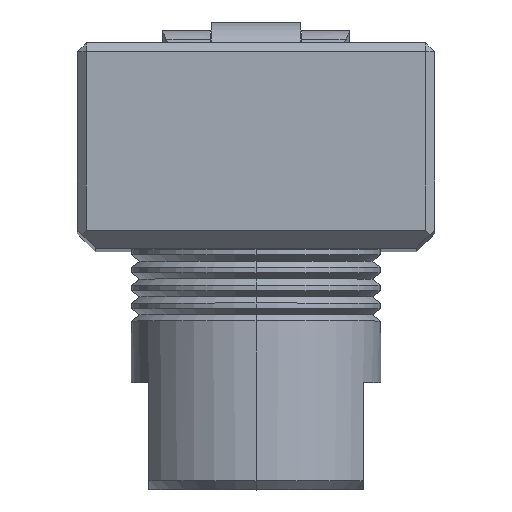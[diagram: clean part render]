
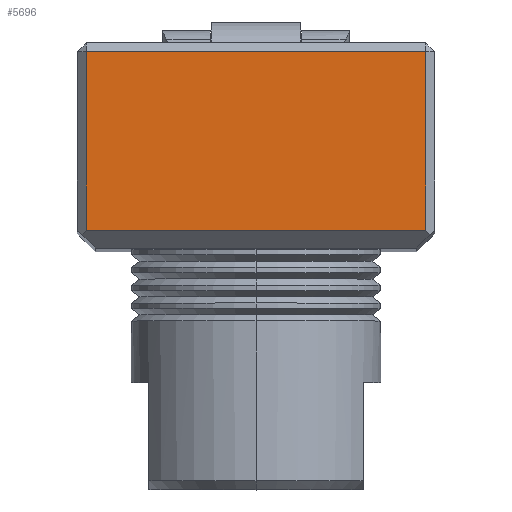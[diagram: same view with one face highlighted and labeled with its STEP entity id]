
A CAD part, top view. The second image highlights one B-rep face of the part: STEP entity #5696.
In plain terms, the highlighted planar face has unit normal (0, 0, 1).
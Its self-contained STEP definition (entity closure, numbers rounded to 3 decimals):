
#356 = EDGE_CURVE ( 'NONE', #379, #5693, #2298, .T. ) ;
#374 = VERTEX_POINT ( 'NONE', #2334 ) ;
#375 = VERTEX_POINT ( 'NONE', #2333 ) ;
#376 = ORIENTED_EDGE ( 'NONE', *, *, #377, .T. ) ;
#377 = EDGE_CURVE ( 'NONE', #5693, #375, #2332, .T. ) ;
#379 = VERTEX_POINT ( 'NONE', #2328 ) ;
#381 = ORIENTED_EDGE ( 'NONE', *, *, #382, .T. ) ;
#382 = EDGE_CURVE ( 'NONE', #375, #374, #2390, .T. ) ;
#384 = EDGE_CURVE ( 'NONE', #374, #379, #2384, .T. ) ;
#385 = ORIENTED_EDGE ( 'NONE', *, *, #356, .T. ) ;
#2297 = CARTESIAN_POINT ( 'NONE',  ( 9.5, 1., 60. ) ) ;
#2298 = LINE ( 'NONE', #2297, #2359 ) ;
#2328 = CARTESIAN_POINT ( 'NONE',  ( -9.5, 1., 60. ) ) ;
#2329 = DIRECTION ( 'NONE',  ( 0., 1., 0. ) ) ;
#2330 = VECTOR ( 'NONE', #2329, 1000. ) ;
#2331 = CARTESIAN_POINT ( 'NONE',  ( 9.5, 11.5, 60. ) ) ;
#2332 = LINE ( 'NONE', #2331, #2330 ) ;
#2333 = CARTESIAN_POINT ( 'NONE',  ( 9.5, 11., 60. ) ) ;
#2334 = CARTESIAN_POINT ( 'NONE',  ( -9.5, 11., 60. ) ) ;
#2358 = DIRECTION ( 'NONE',  ( 1., 0., 0. ) ) ;
#2359 = VECTOR ( 'NONE', #2358, 1000. ) ;
#2377 = DIRECTION ( 'NONE',  ( 0., -1., 0. ) ) ;
#2378 = VECTOR ( 'NONE', #2377, 1000. ) ;
#2379 = CARTESIAN_POINT ( 'NONE',  ( -9.5, 0., 60. ) ) ;
#2384 = LINE ( 'NONE', #2379, #2378 ) ;
#2387 = DIRECTION ( 'NONE',  ( -1., 0., 0. ) ) ;
#2388 = VECTOR ( 'NONE', #2387, 1000. ) ;
#2389 = CARTESIAN_POINT ( 'NONE',  ( -10., 11., 60. ) ) ;
#2390 = LINE ( 'NONE', #2389, #2388 ) ;
#4731 = CARTESIAN_POINT ( 'NONE',  ( 9.5, 1., 60. ) ) ;
#4782 = DIRECTION ( 'NONE',  ( -1., 0., 0. ) ) ;
#4783 = DIRECTION ( 'NONE',  ( 0., 0., -1. ) ) ;
#4784 = CARTESIAN_POINT ( 'NONE',  ( 10., 11.5, 60. ) ) ;
#4785 = AXIS2_PLACEMENT_3D ( 'NONE', #4784, #4783, #4782 ) ;
#4786 = PLANE ( 'NONE',  #4785 ) ;
#4791 = FACE_OUTER_BOUND ( 'NONE', #5698, .T. ) ;
#5693 = VERTEX_POINT ( 'NONE', #4731 ) ;
#5696 = ADVANCED_FACE ( 'NONE', ( #4791 ), #4786, .F. ) ;
#5697 = ORIENTED_EDGE ( 'NONE', *, *, #384, .T. ) ;
#5698 = EDGE_LOOP ( 'NONE', ( #5697, #385, #376, #381 ) ) ;
